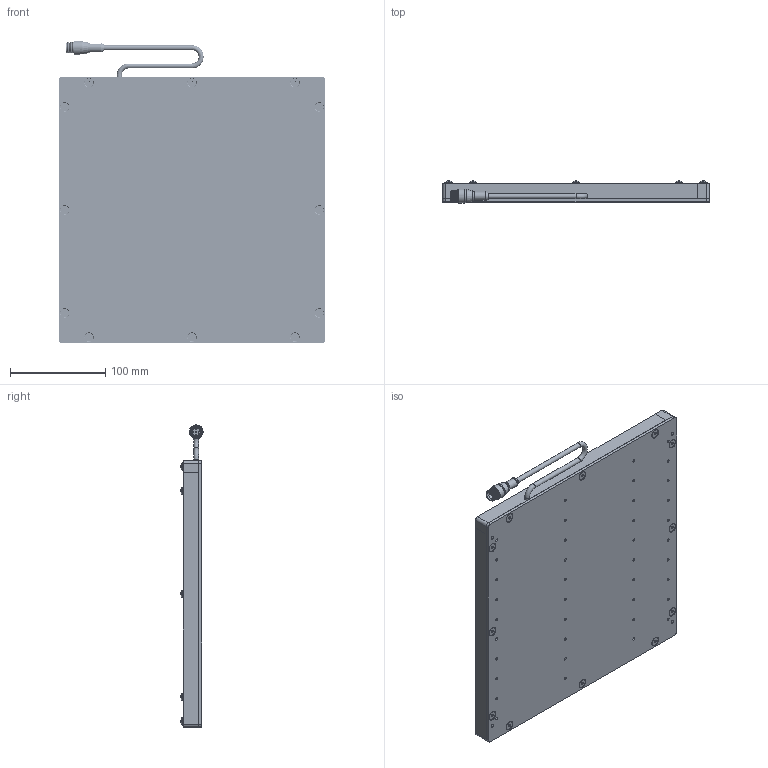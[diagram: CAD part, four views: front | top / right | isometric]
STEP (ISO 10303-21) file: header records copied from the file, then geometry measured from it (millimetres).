
FILE_DESCRIPTION (( 'STEP AP214' ), '1' );
FILE_NAME ('SBL1010-XXX.STEP', '2026-04-17T14:19:46', ( '' ), ( '' ), 'SwSTEP 2.0', 'SolidWorks 2025', '' );
FILE_SCHEMA (( 'AUTOMOTIVE_DESIGN' ));
Length unit declared in the file: inch
Products named in the file (11): SBL3 to 18in rail_10in rail; MC Pigtail 24; Hex Standoff .375 x 8-32; M12 Connector 4,5 and 8 pin_RS4.5T; SBL1010-XXX; BackPlate BLYYXX_1010; SBL3 to 18in rail_10in No CG; 8-32 x 0.375 FHCS (92210A192)_92210A192; WD-SBLYYXX_10x10 with holes; 8-32 x .375 Nylon Screw_.375" 94611A192; SC Pigtail Complete 18_5pin
Assembly tree (45 placements, depth 3):
  SBL1010-XXX
    BackPlate BLYYXX_1010
    SBL3 to 18in rail_10in rail
    SBL3 to 18in rail_10in No CG  x3
    SC Pigtail Complete 18_5pin
      MC Pigtail 24
      M12 Connector 4,5 and 8 pin_RS4.5T
    WD-SBLYYXX_10x10 with holes
    Hex Standoff .375 x 8-32  x12
    8-32 x 0.375 FHCS (92210A192)_92210A192  x12
    8-32 x .375 Nylon Screw_.375" 94611A192  x12
Bounding box: 279.4 x 23.38 x 316.93 mm (x, y, z)
Volume: 661215.2 mm3; surface area: 400911.6 mm2
Topology: 44 solids, 44 shells, 1434 faces, 3592 edges, 2295 vertices
Faces by surface type: plane 533, cylinder 324, bspline 324, cone 211, torus 25, sphere 17
Full cylindrical faces by diameter (mm): 0.762 x5, 2.705 x40, 3.454 x16, 4.496 x36, 5.207 x3, 6.604 x8, 6.858 x12, 8.128 x12, 8.382 x1, 8.636 x1, 9.119 x12, 10.16 x1, 10.541 x1, 11.938 x1, 13.716 x2, 14.732 x1
Entity records: 17036 total; most frequent: CARTESIAN_POINT 5795, DIRECTION 2036, ORIENTED_EDGE 1694, AXIS2_PLACEMENT_3D 853, EDGE_CURVE 847, EDGE_LOOP 732, VERTEX_POINT 641, FACE_OUTER_BOUND 515
